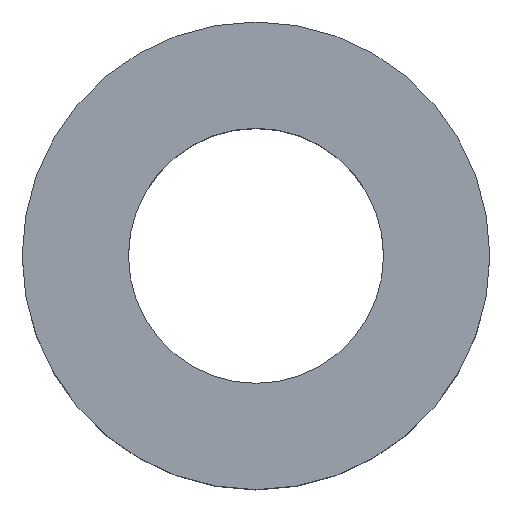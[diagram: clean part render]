
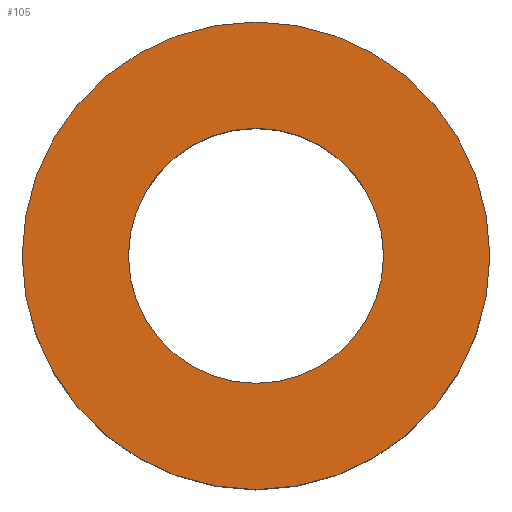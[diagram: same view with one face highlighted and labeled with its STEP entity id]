
A CAD part, top view. The second image highlights one B-rep face of the part: STEP entity #105.
In plain terms, the highlighted planar face has unit normal (0, 0, 1).
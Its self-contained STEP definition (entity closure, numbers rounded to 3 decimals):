
#21 = EDGE_CURVE('',#22,#22,#24,.T.);
#22 = VERTEX_POINT('',#23);
#23 = CARTESIAN_POINT('',(2.2,0.,1.));
#24 = SURFACE_CURVE('',#25,(#30,#42),.PCURVE_S1.);
#25 = CIRCLE('',#26,2.2);
#26 = AXIS2_PLACEMENT_3D('',#27,#28,#29);
#27 = CARTESIAN_POINT('',(0.,0.,1.));
#28 = DIRECTION('',(0.,0.,1.));
#29 = DIRECTION('',(1.,0.,-0.));
#30 = PCURVE('',#31,#36);
#31 = CYLINDRICAL_SURFACE('',#32,2.2);
#32 = AXIS2_PLACEMENT_3D('',#33,#34,#35);
#33 = CARTESIAN_POINT('',(0.,0.,-1.));
#34 = DIRECTION('',(0.,0.,1.));
#35 = DIRECTION('',(1.,0.,-0.));
#36 = DEFINITIONAL_REPRESENTATION('',(#37),#41);
#37 = LINE('',#38,#39);
#38 = CARTESIAN_POINT('',(0.,2.));
#39 = VECTOR('',#40,1.);
#40 = DIRECTION('',(1.,0.));
#41 = ( GEOMETRIC_REPRESENTATION_CONTEXT(2) 
PARAMETRIC_REPRESENTATION_CONTEXT() REPRESENTATION_CONTEXT('2D SPACE',''
  ) );
#42 = PCURVE('',#43,#48);
#43 = PLANE('',#44);
#44 = AXIS2_PLACEMENT_3D('',#45,#46,#47);
#45 = CARTESIAN_POINT('',(0.,0.,1.));
#46 = DIRECTION('',(0.,0.,1.));
#47 = DIRECTION('',(1.,0.,-0.));
#48 = DEFINITIONAL_REPRESENTATION('',(#49),#53);
#49 = CIRCLE('',#50,2.2);
#50 = AXIS2_PLACEMENT_2D('',#51,#52);
#51 = CARTESIAN_POINT('',(0.,0.));
#52 = DIRECTION('',(1.,0.));
#53 = ( GEOMETRIC_REPRESENTATION_CONTEXT(2) 
PARAMETRIC_REPRESENTATION_CONTEXT() REPRESENTATION_CONTEXT('2D SPACE',''
  ) );
#105 = ADVANCED_FACE('',(#106,#109),#43,.T.);
#106 = FACE_BOUND('',#107,.T.);
#107 = EDGE_LOOP('',(#108));
#108 = ORIENTED_EDGE('',*,*,#21,.T.);
#109 = FACE_BOUND('',#110,.T.);
#110 = EDGE_LOOP('',(#111));
#111 = ORIENTED_EDGE('',*,*,#112,.F.);
#112 = EDGE_CURVE('',#113,#113,#115,.T.);
#113 = VERTEX_POINT('',#114);
#114 = CARTESIAN_POINT('',(1.2,0.,1.));
#115 = SURFACE_CURVE('',#116,(#121,#128),.PCURVE_S1.);
#116 = CIRCLE('',#117,1.2);
#117 = AXIS2_PLACEMENT_3D('',#118,#119,#120);
#118 = CARTESIAN_POINT('',(0.,0.,1.));
#119 = DIRECTION('',(0.,0.,1.));
#120 = DIRECTION('',(1.,0.,-0.));
#121 = PCURVE('',#43,#122);
#122 = DEFINITIONAL_REPRESENTATION('',(#123),#127);
#123 = CIRCLE('',#124,1.2);
#124 = AXIS2_PLACEMENT_2D('',#125,#126);
#125 = CARTESIAN_POINT('',(0.,0.));
#126 = DIRECTION('',(1.,0.));
#127 = ( GEOMETRIC_REPRESENTATION_CONTEXT(2) 
PARAMETRIC_REPRESENTATION_CONTEXT() REPRESENTATION_CONTEXT('2D SPACE',''
  ) );
#128 = PCURVE('',#129,#134);
#129 = CYLINDRICAL_SURFACE('',#130,1.2);
#130 = AXIS2_PLACEMENT_3D('',#131,#132,#133);
#131 = CARTESIAN_POINT('',(0.,0.,-2.));
#132 = DIRECTION('',(0.,0.,1.));
#133 = DIRECTION('',(1.,0.,-0.));
#134 = DEFINITIONAL_REPRESENTATION('',(#135),#139);
#135 = LINE('',#136,#137);
#136 = CARTESIAN_POINT('',(0.,3.));
#137 = VECTOR('',#138,1.);
#138 = DIRECTION('',(1.,0.));
#139 = ( GEOMETRIC_REPRESENTATION_CONTEXT(2) 
PARAMETRIC_REPRESENTATION_CONTEXT() REPRESENTATION_CONTEXT('2D SPACE',''
  ) );
